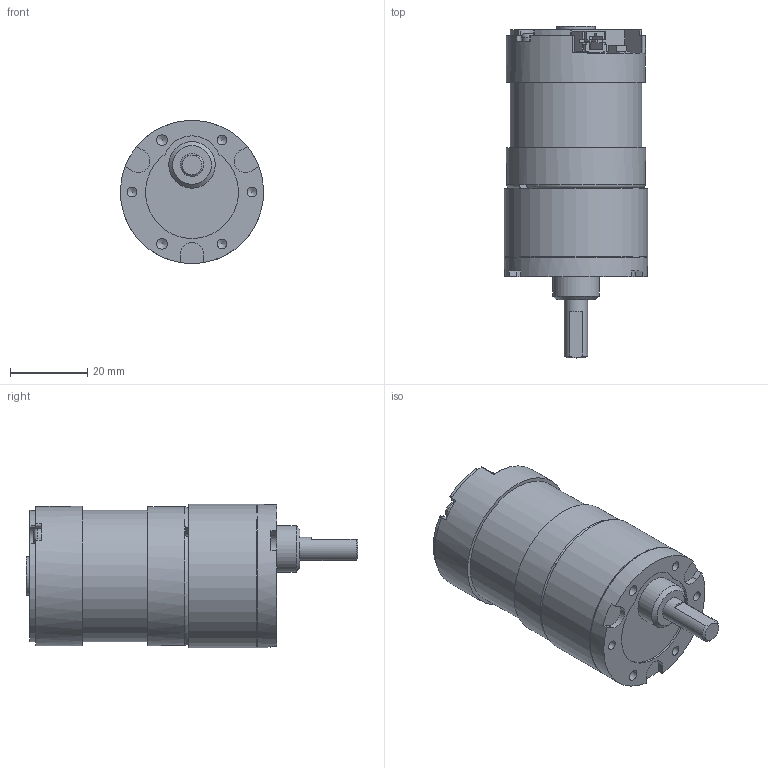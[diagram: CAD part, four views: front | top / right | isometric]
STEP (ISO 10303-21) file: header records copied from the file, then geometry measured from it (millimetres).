
FILE_DESCRIPTION((''),'2;1');
FILE_NAME('\\Servert1600\threepeace\2015homepage\STP\HP-Data_GM_3D_STEP\TP-3641AA,BA,CA,DA,EA（ドライバ内蔵）-KJ-15～30-P000-12,24.stp','2016-11-11T13:07:16',('Administrator'),(''),'Autodesk Inventor 2010','Autodesk Inventor 2010','');
FILE_SCHEMA(('AUTOMOTIVE_DESIGN { 1 0 10303 214 1 1 1 1 }'));
Length unit declared in the file: millimetre
Products named in the file (6): TP-3641AA,BA,CA,DA,EA（ドライバ内蔵）-KJ-15～30-P000-12,24; KJ-3; TP-3641AA,BA,CA-24; TP-3641BA,l; S2B-PH-SM4-TB; SMD-TRIMMERS
Assembly tree (5 placements, depth 3):
  TP-3641AA,BA,CA,DA,EA（ドライバ内蔵）-KJ-15～30-P000-12,24
    KJ-3
    TP-3641AA,BA,CA-24
      TP-3641BA,l
      S2B-PH-SM4-TB
      SMD-TRIMMERS
Bounding box: 37 x 85.8 x 37 mm (x, y, z)
Volume: 63637.9 mm3; surface area: 13531.8 mm2
Topology: 5 solids, 5 shells, 242 faces, 640 edges, 423 vertices
Faces by surface type: plane 152, cylinder 46, bspline 37, torus 4, cone 3
Full cylindrical faces by diameter (mm): 1.9 x1, 2.5 x2, 5 x1, 6 x1, 10 x2, 12 x1, 34.1 x1, 36 x2, 36.6 x1, 37 x2
Entity records: 7709 total; most frequent: CARTESIAN_POINT 1866, DIRECTION 1127, ORIENTED_EDGE 1094, EDGE_CURVE 547, VECTOR 387, LINE 387, VERTEX_POINT 384, AXIS2_PLACEMENT_3D 370
